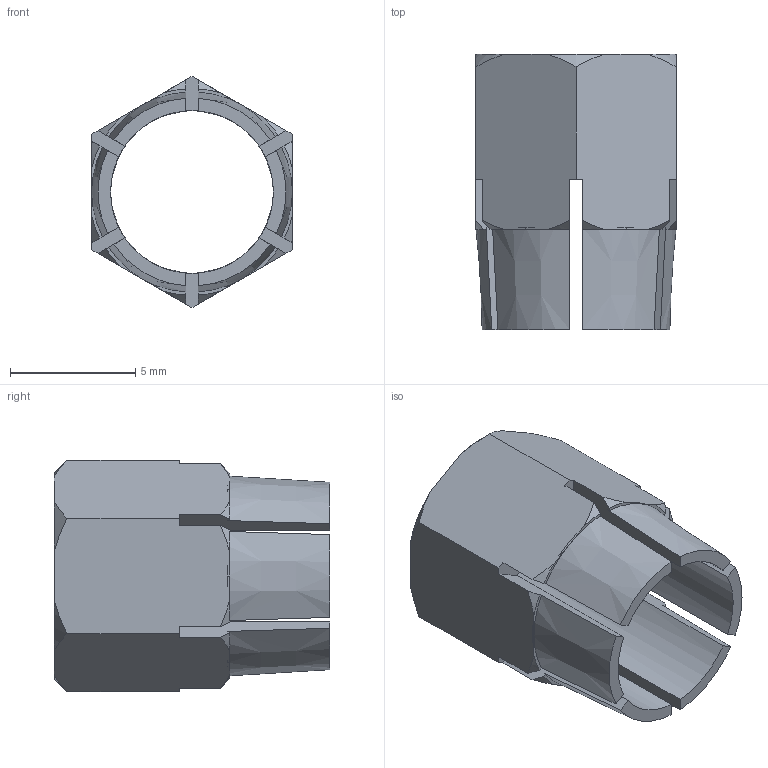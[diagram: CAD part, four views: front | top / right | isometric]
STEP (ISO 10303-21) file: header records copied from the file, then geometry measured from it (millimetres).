
FILE_DESCRIPTION((''),'2;1');
FILE_NAME('C:\Test\stp\4000102.stp','2008-03-18T11:04:10',('is'),(''),'Autodesk Inventor 10','Autodesk Inventor 10','');
FILE_SCHEMA(('AUTOMOTIVE_DESIGN { 1 0 10303 214 1 1 1 1 }'));
Length unit declared in the file: millimetre
Products named in the file (1): ISM ø6.5 (4000102)
Bounding box: 8 x 11 x 9.24 mm (x, y, z)
Volume: 195.5 mm3; surface area: 577.4 mm2
Topology: 1 solids, 1 shells, 80 faces, 225 edges, 146 vertices
Faces by surface type: plane 43, cone 24, cylinder 13
Full cylindrical faces by diameter (mm): 6.5 x1
Entity records: 2581 total; most frequent: CARTESIAN_POINT 551, ORIENTED_EDGE 458, DIRECTION 404, EDGE_CURVE 229, VERTEX_POINT 145, AXIS2_PLACEMENT_3D 142, VECTOR 120, LINE 120
